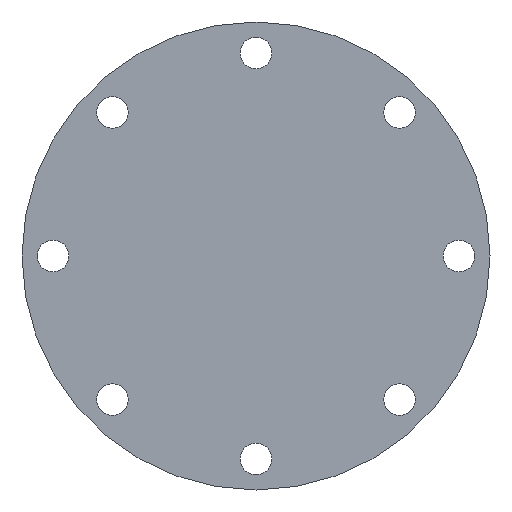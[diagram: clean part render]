
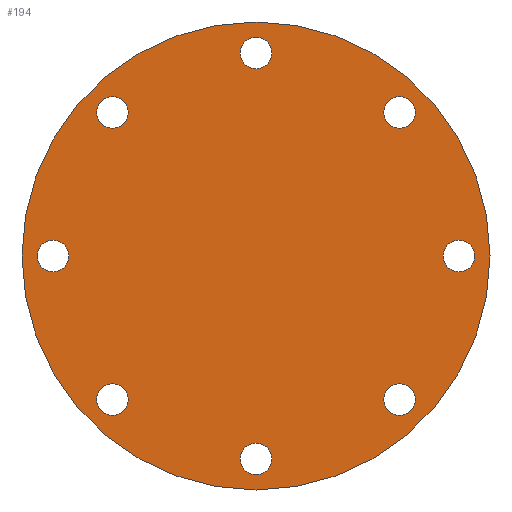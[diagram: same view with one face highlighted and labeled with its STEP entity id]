
A CAD part, front view. The second image highlights one B-rep face of the part: STEP entity #194.
In plain terms, the highlighted planar face has unit normal (0, -1, 0).
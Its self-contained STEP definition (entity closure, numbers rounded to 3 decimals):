
#13=PLANE($,#224);
#23=FACE_BOUND($,#67,.T.);
#24=FACE_BOUND($,#68,.T.);
#25=FACE_BOUND($,#69,.T.);
#26=FACE_BOUND($,#70,.T.);
#27=FACE_BOUND($,#71,.T.);
#28=FACE_BOUND($,#72,.T.);
#29=FACE_BOUND($,#73,.T.);
#30=FACE_BOUND($,#74,.T.);
#31=FACE_BOUND($,#75,.T.);
#67=EDGE_LOOP($,(#157));
#68=EDGE_LOOP($,(#158));
#69=EDGE_LOOP($,(#159));
#70=EDGE_LOOP($,(#160));
#71=EDGE_LOOP($,(#161));
#72=EDGE_LOOP($,(#162));
#73=EDGE_LOOP($,(#163));
#74=EDGE_LOOP($,(#164));
#75=EDGE_LOOP($,(#165));
#88=CIRCLE($,#202,11.5);
#90=CIRCLE($,#205,11.5);
#92=CIRCLE($,#208,11.5);
#94=CIRCLE($,#211,11.5);
#96=CIRCLE($,#214,11.5);
#98=CIRCLE($,#217,11.5);
#100=CIRCLE($,#220,11.5);
#102=CIRCLE($,#223,11.5);
#103=CIRCLE($,#225,170.);
#106=VERTEX_POINT($,#293);
#108=VERTEX_POINT($,#298);
#110=VERTEX_POINT($,#303);
#112=VERTEX_POINT($,#308);
#114=VERTEX_POINT($,#313);
#116=VERTEX_POINT($,#318);
#118=VERTEX_POINT($,#323);
#120=VERTEX_POINT($,#328);
#121=VERTEX_POINT($,#331);
#124=EDGE_CURVE($,#106,#106,#88,.T.);
#126=EDGE_CURVE($,#108,#108,#90,.T.);
#128=EDGE_CURVE($,#110,#110,#92,.T.);
#130=EDGE_CURVE($,#112,#112,#94,.T.);
#132=EDGE_CURVE($,#114,#114,#96,.T.);
#134=EDGE_CURVE($,#116,#116,#98,.T.);
#136=EDGE_CURVE($,#118,#118,#100,.T.);
#138=EDGE_CURVE($,#120,#120,#102,.T.);
#139=EDGE_CURVE($,#121,#121,#103,.T.);
#157=ORIENTED_EDGE($,*,*,#124,.T.);
#158=ORIENTED_EDGE($,*,*,#126,.T.);
#159=ORIENTED_EDGE($,*,*,#128,.T.);
#160=ORIENTED_EDGE($,*,*,#130,.T.);
#161=ORIENTED_EDGE($,*,*,#132,.T.);
#162=ORIENTED_EDGE($,*,*,#134,.T.);
#163=ORIENTED_EDGE($,*,*,#136,.T.);
#164=ORIENTED_EDGE($,*,*,#138,.T.);
#165=ORIENTED_EDGE($,*,*,#139,.F.);
#194=ADVANCED_FACE($,(#23,#24,#25,#26,#27,#28,#29,#30,#31),#13,.T.);
#202=AXIS2_PLACEMENT_3D($,#294,#235,#236);
#205=AXIS2_PLACEMENT_3D($,#299,#241,#242);
#208=AXIS2_PLACEMENT_3D($,#304,#247,#248);
#211=AXIS2_PLACEMENT_3D($,#309,#253,#254);
#214=AXIS2_PLACEMENT_3D($,#314,#259,#260);
#217=AXIS2_PLACEMENT_3D($,#319,#265,#266);
#220=AXIS2_PLACEMENT_3D($,#324,#271,#272);
#223=AXIS2_PLACEMENT_3D($,#329,#277,#278);
#224=AXIS2_PLACEMENT_3D($,#330,#279,#280);
#225=AXIS2_PLACEMENT_3D($,#332,#281,#282);
#235=DIRECTION('center_axis',(0.,1.,0.));
#236=DIRECTION('ref_axis',(0.707,0.,0.707));
#241=DIRECTION('center_axis',(0.,1.,0.));
#242=DIRECTION('ref_axis',(0.,0.,1.));
#247=DIRECTION('center_axis',(0.,1.,0.));
#248=DIRECTION('ref_axis',(-0.707,0.,0.707));
#253=DIRECTION('center_axis',(0.,1.,0.));
#254=DIRECTION('ref_axis',(-1.,0.,0.));
#259=DIRECTION('center_axis',(0.,1.,0.));
#260=DIRECTION('ref_axis',(-0.707,0.,-0.707));
#265=DIRECTION('center_axis',(0.,1.,0.));
#266=DIRECTION('ref_axis',(0.,0.,-1.));
#271=DIRECTION('center_axis',(0.,1.,0.));
#272=DIRECTION('ref_axis',(0.707,0.,-0.707));
#277=DIRECTION('center_axis',(0.,1.,0.));
#278=DIRECTION('ref_axis',(1.,0.,0.));
#279=DIRECTION('center_axis',(0.,-1.,0.));
#280=DIRECTION('ref_axis',(0.,0.,-1.));
#281=DIRECTION('center_axis',(0.,1.,0.));
#282=DIRECTION('ref_axis',(-1.,0.,0.));
#293=CARTESIAN_POINT('',(96.167,0.,96.167));
#294=CARTESIAN_POINT('Origin',(104.298,0.,104.298));
#298=CARTESIAN_POINT('',(0.,0.,136.));
#299=CARTESIAN_POINT('Origin',(0.,0.,147.5));
#303=CARTESIAN_POINT('',(-96.167,0.,96.167));
#304=CARTESIAN_POINT('Origin',(-104.298,0.,104.298));
#308=CARTESIAN_POINT('',(-136.,0.,0.));
#309=CARTESIAN_POINT('Origin',(-147.5,0.,0.));
#313=CARTESIAN_POINT('',(-96.167,0.,-96.167));
#314=CARTESIAN_POINT('Origin',(-104.298,0.,-104.298));
#318=CARTESIAN_POINT('',(0.,0.,-136.));
#319=CARTESIAN_POINT('Origin',(0.,0.,-147.5));
#323=CARTESIAN_POINT('',(96.167,0.,-96.167));
#324=CARTESIAN_POINT('Origin',(104.298,0.,-104.298));
#328=CARTESIAN_POINT('',(136.,0.,0.));
#329=CARTESIAN_POINT('Origin',(147.5,0.,0.));
#330=CARTESIAN_POINT('Origin',(-85.,0.,0.));
#331=CARTESIAN_POINT('',(-170.,0.,0.));
#332=CARTESIAN_POINT('Origin',(0.,0.,0.));
